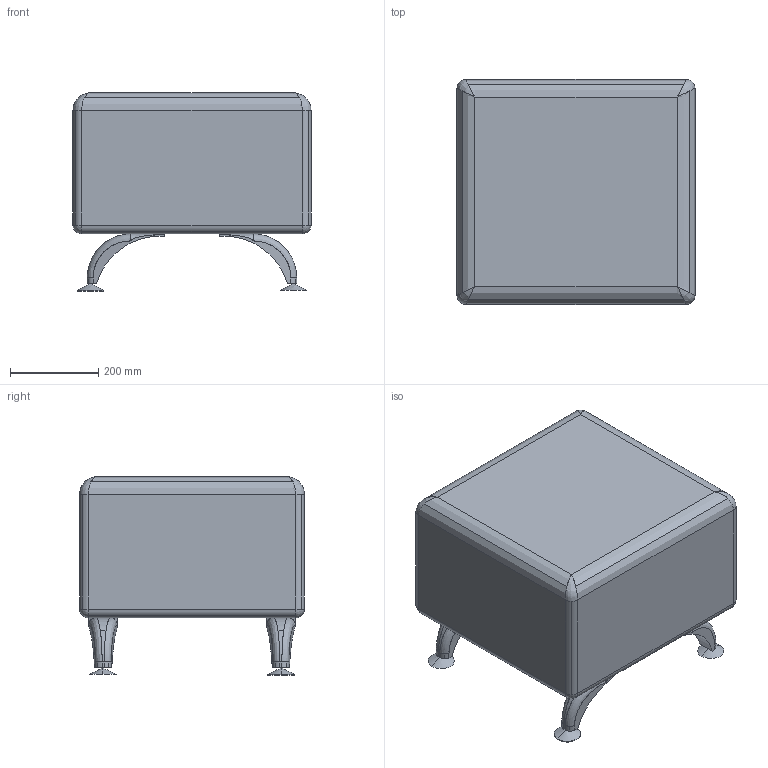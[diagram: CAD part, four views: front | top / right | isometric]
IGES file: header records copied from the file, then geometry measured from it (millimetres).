
Start section: IMSI TurboCAD v14.0
Global section: author: NULL; organization: NULL; date: 20121022.171843; units: millimetre
Bounding box: 540 x 510 x 450 mm (x, y, z)
Surface area: 1316925.5 mm2 (no closed solid volume)
Topology: 0 solids, 0 shells, 134 faces, 628 edges, 612 vertices
Faces by surface type: revolution 74, extrusion 48, bspline 12
